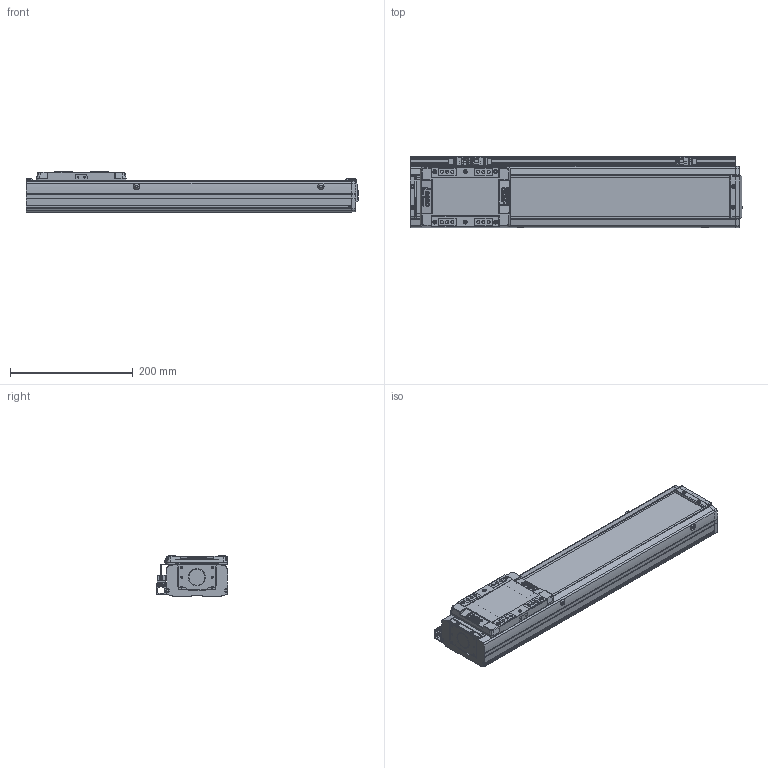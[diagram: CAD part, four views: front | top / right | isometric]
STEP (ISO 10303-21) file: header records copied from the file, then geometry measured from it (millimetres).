
FILE_DESCRIPTION(('STEP AP214'),'1');
FILE_NAME('Z:/Web/3D/SAN100/SAN100 양산용 (STEP)/SAN100ㅁㅁ-350+3SL.stp','2013-05-08T06:19:20',(' '),(' '),'Spatial InterOp 3D',' ',' ');
FILE_SCHEMA(('automotive_design'));
Length unit declared in the file: millimetre
Products named in the file (44): SUS COVER; SFX-SAN100; RRCV-SAN100; 스크루 : Round - M4.0 x 10.0; M3.0 x 6.0; 스크루 : Round - M3.0 x 6.0; FRBL-SAN100; SLBL-SAN100; SLCV-SAN100; 스크루 : Countersunk - M3.0 x 6.0; BASE; 스크루 : Round - M5.0 x 6.0; SGD-SAN100; SRL-16x17-380L; EE-SX674; SBK-SX674-352
Bounding box: 540.5 x 116 x 66 mm (x, y, z)
Volume: 1601542.2 mm3; surface area: 464950.7 mm2
Topology: 44 solids, 45 shells, 2250 faces, 5886 edges, 3815 vertices
Faces by surface type: plane 1231, cylinder 755, cone 178, sphere 56, torus 18, bspline 12
Entity records: 88629 total; most frequent: CARTESIAN_POINT 13041, DIRECTION 12309, ORIENTED_EDGE 11616, EDGE_CURVE 5808, AXIS2_PLACEMENT_3D 4304, VERTEX_POINT 3815, LINE 3701, VECTOR 3701
